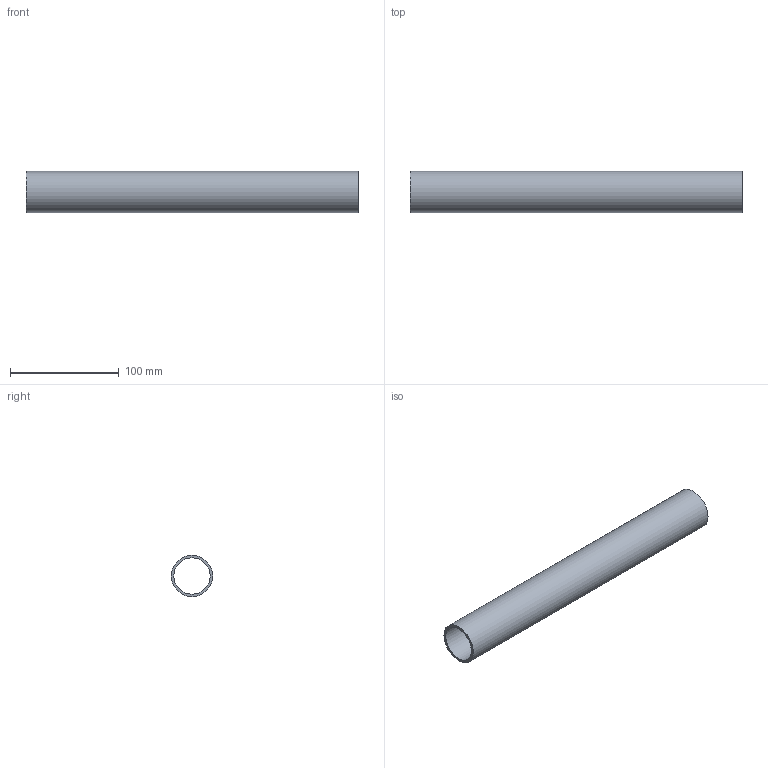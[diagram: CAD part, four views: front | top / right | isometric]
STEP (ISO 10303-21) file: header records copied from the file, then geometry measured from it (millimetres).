
FILE_DESCRIPTION(/* description */ (''),/* implementation_level */ '2;1');
FILE_NAME(/* name */ 'B1 Bend follower_developed.step',/* time_stamp */ '2026-10-26T11:43:45-04:00',/* author */ (''),/* organization */ (''),/* preprocessor_version */ 'ST-DEVELOPER v20.2',/* originating_system */ 'Autodesk Translation Framework v15.17.0.0',/* authorisation */ '');
FILE_SCHEMA (('AUTOMOTIVE_DESIGN { 1 0 10303 214 3 1 1 }'));
Length unit declared in the file: inch
Products named in the file (1): 2026-10-26-11-43-43-722
Bounding box: 304.8 x 38.1 x 38.1 mm (x, y, z)
Volume: 82457.9 mm3; surface area: 68885.8 mm2
Topology: 1 solids, 1 shells, 4 faces, 6 edges, 4 vertices
Faces by surface type: cylinder 2, plane 2
Full cylindrical faces by diameter (mm): 33.274 x1, 38.1 x1
Entity records: 133 total; most frequent: DIRECTION 20, CARTESIAN_POINT 15, ORIENTED_EDGE 12, AXIS2_PLACEMENT_3D 9, EDGE_LOOP 6, EDGE_CURVE 6, FACE_OUTER_BOUND 4, CIRCLE 4
